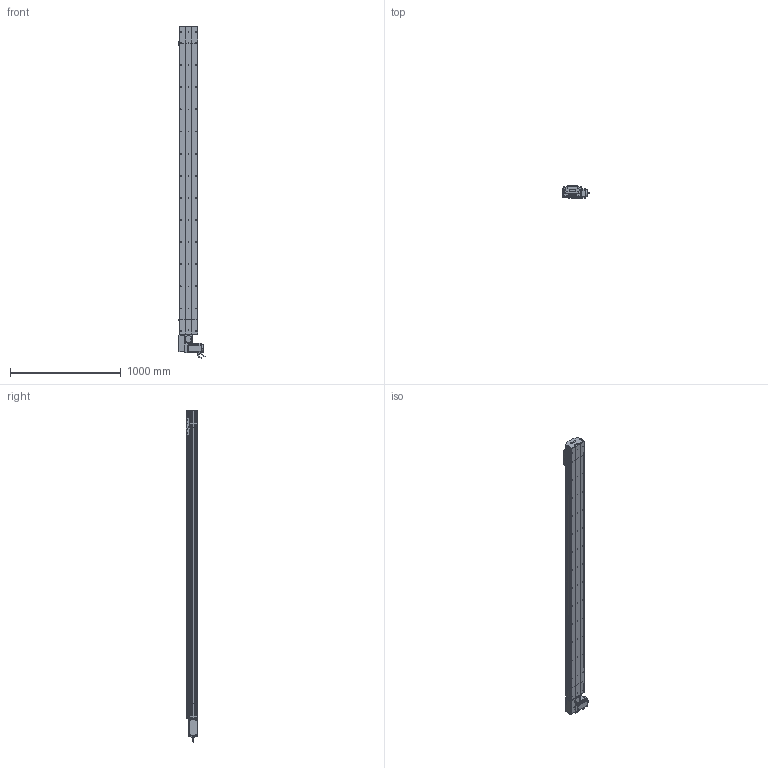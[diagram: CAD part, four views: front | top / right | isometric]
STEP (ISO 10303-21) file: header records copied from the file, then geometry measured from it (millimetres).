
FILE_DESCRIPTION (( 'STEP AP214' ), '1' );
FILE_NAME ('D17 TBH RH S2500.STEP', '2010-06-30T08:44:23', ( 'Christophe Gaillard' ), ( 'SGA' ), 'SwSTEP 2.0', 'SolidWorks 2010', '' );
FILE_SCHEMA (( 'AUTOMOTIVE_DESIGN' ));
Length unit declared in the file: millimetre
Products named in the file (40): plaque de  bout head D17B RH_Default; corpl head D17 _Default; course 2500 D17B_Default; couroie head D17_Default; codeur 90BLDC125-640; Arbre+rail head D17B; poulie head_Default; avant 90BLDC125A-640; D17 TBH RH S2500; corps 90BLDC125A-640; couvercle D17B head_Default; cache D17_Default; Moteur motionking 90BLDC125A-640; vis M5 L5_Default; couvercle D17B course L2500_Default; corp D17B 2500_Default; Head RH D17B_Default; Couroie+ rail D17 Course 2500 ; vis M5 L70_Default; Conecteur_Default; Conecteur2_Default; cache arbre D17_Default; Vis M5 L16-2_Default; vis M5 L16_Default; Plaque racord D17_Default; Tail D17B+100_Default; Renvoi RH_Default; plaque de  bout tail D17B_Default; Rail D17B; tete d''axe poulie D17B; corp tail D17B+100_Default; couvercle D17B_Default; Couroie tail D17B_Default; poulie tail_Default; chariot D17S_Default; vis M5 L25_Default; vis M5 L8 90°_Default; vis M5 L12_Default; guide D17; Chariot D17
Assembly tree (70 placements, depth 4):
  D17 TBH RH S2500
    Head RH D17B_Default
      cache D17_Default  x2
      vis M5 L5_Default  x4
      couvercle D17B head_Default
      Vis M5 L16-2_Default  x4
      vis M5 L25_Default  x2
      vis M5 L12_Default  x8
      vis M5 L16_Default  x2
      Arbre+rail head D17B
      cache arbre D17_Default
      vis M5 L70_Default  x4
      Plaque racord D17_Default
      Renvoi RH_Default
      Moteur motionking 90BLDC125A-640
        avant 90BLDC125A-640
        corps 90BLDC125A-640
        Conecteur2_Default
        Conecteur_Default
        codeur 90BLDC125-640
      poulie head_Default
      plaque de  bout head D17B RH_Default
      corpl head D17 _Default
      couroie head D17_Default
    chariot D17S_Default
      guide D17  x2
      vis M5 L12_Default  x4
      Chariot D17
    course 2500 D17B_Default
      couvercle D17B course L2500_Default
      Couroie+ rail D17 Course 2500 
      corp D17B 2500_Default
    Tail D17B+100_Default
      vis M5 L8 90°_Default  x2
      vis M5 L12_Default  x4
      couvercle D17B_Default
      poulie tail_Default
      vis M5 L25_Default  x2
      corp tail D17B+100_Default
      plaque de  bout tail D17B_Default
      Couroie tail D17B_Default
      Rail D17B
      tete d''axe poulie D17B
Bounding box: 245.2 x 105.65 x 3000.95 mm (x, y, z)
Volume: 16874132.8 mm3; surface area: 4886894.4 mm2
Topology: 94 solids, 94 shells, 2753 faces, 7015 edges, 4514 vertices
Faces by surface type: plane 1611, cylinder 829, bspline 136, cone 88, torus 85, sphere 4
Entity records: 86986 total; most frequent: CARTESIAN_POINT 25531, ORIENTED_EDGE 10802, DIRECTION 10230, EDGE_CURVE 5401, VERTEX_POINT 3538, LINE 3536, VECTOR 3536, AXIS2_PLACEMENT_3D 3347
